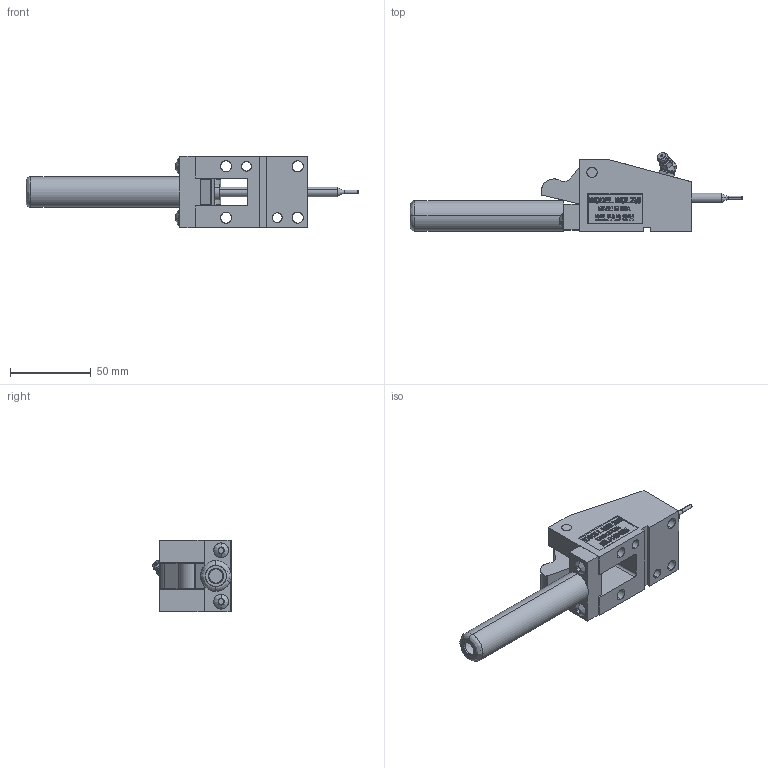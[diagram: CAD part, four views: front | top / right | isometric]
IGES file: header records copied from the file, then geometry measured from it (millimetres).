
Start section: SolidWorks IGES file using analytic representation for surfaces
Global section: file name: Y:\3\MOL25045\CLOSED\MOL25045-C.IGS; native system: SolidWorks 2006 by SolidWorks Corporation; preprocessor: SolidWorks 2006 by SolidWorks Corporation; author: Jim; date: 090125.180052; units: inch
Bounding box: 205.59 x 48.76 x 44.45 mm (x, y, z)
Surface area: 45376.7 mm2 (no closed solid volume)
Topology: 0 solids, 0 shells, 599 faces, 7630 edges, 7628 vertices
Faces by surface type: bspline 477, revolution 122
